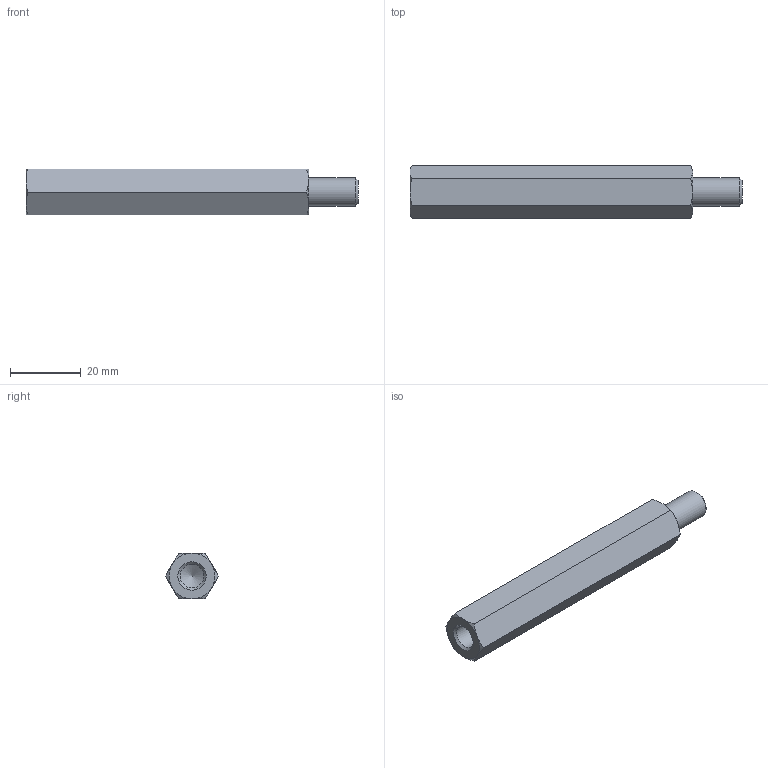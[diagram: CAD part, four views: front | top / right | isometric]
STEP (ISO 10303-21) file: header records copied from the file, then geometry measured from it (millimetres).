
FILE_DESCRIPTION( ( 'STEP AP203' ), '1' );
FILE_NAME( 'C:/Temp/Ganter_Step_05_03_2020/data/3_2/gn6220/gn6220_st/Spacer GN 6220-ST-M8-80-B.stp', '2020-03-13T05:42:52', ( 'License CC BY-ND 4.0' ), ( 'CADENAS' ), ' ', 'PARTsolutions', ' ' );
FILE_SCHEMA( ( 'CONFIG_CONTROL_DESIGN' ) );
Length unit declared in the file: millimetre
Products named in the file (1): _Spacer GN 6220-ST-M8-80-B
Bounding box: 94 x 15.01 x 13 mm (x, y, z)
Volume: 11671.6 mm3; surface area: 4641.4 mm2
Topology: 1 solids, 1 shells, 26 faces, 55 edges, 32 vertices
Faces by surface type: cone 15, plane 9, cylinder 2
Full cylindrical faces by diameter (mm): 6.647 x1, 8 x1
Entity records: 778 total; most frequent: CARTESIAN_POINT 242, DIRECTION 96, ORIENTED_EDGE 96, EDGE_CURVE 48, AXIS2_PLACEMENT_3D 45, EDGE_LOOP 32, VERTEX_POINT 31, FACE_OUTER_BOUND 28
